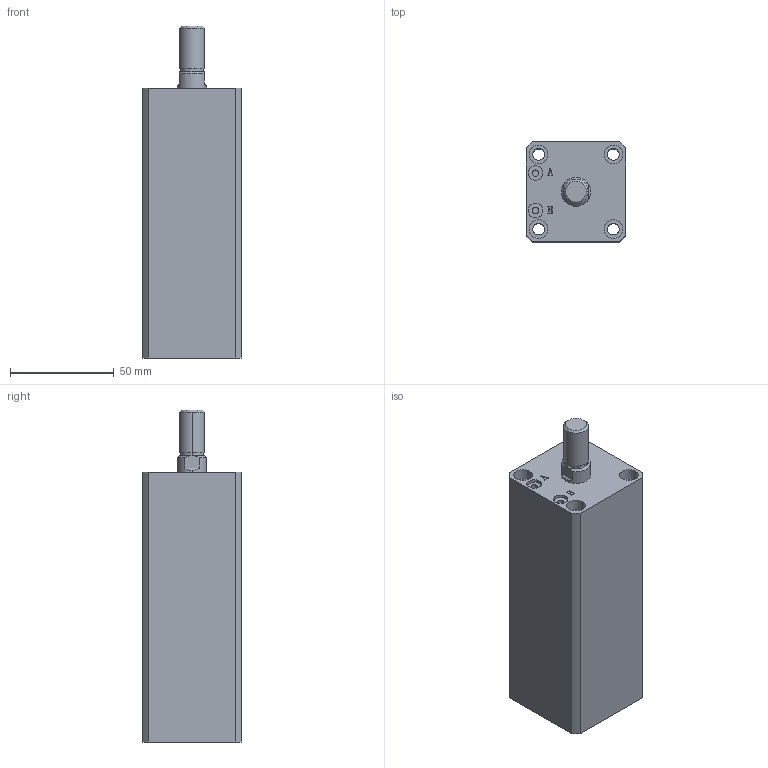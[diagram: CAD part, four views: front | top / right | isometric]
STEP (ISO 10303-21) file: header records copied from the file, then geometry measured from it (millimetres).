
FILE_DESCRIPTION (( 'STEP AP203' ), '1' );
FILE_NAME ('HTB-SDMA25-85W.STEP', '2019-10-07T11:14:47', ( '微软用户' ), ( '微软中国' ), 'SwSTEP 2.0', 'SolidWorks 2012', '' );
FILE_SCHEMA (( 'CONFIG_CONTROL_DESIGN' ));
Length unit declared in the file: millimetre
Products named in the file (3): HTB-SDMA25-85W; HTB-SDMA25-85W活塞杆; HTB-SDMA25-85掛极
Assembly tree (2 placements, depth 2):
  HTB-SDMA25-85W
    HTB-SDMA25-85掛极
    HTB-SDMA25-85W活塞杆
Bounding box: 48 x 48 x 160 mm (x, y, z)
Volume: 257664.4 mm3; surface area: 55907 mm2
Topology: 2 solids, 2 shells, 141 faces, 335 edges, 220 vertices
Faces by surface type: plane 67, cylinder 48, bspline 16, torus 6, cone 4
Entity records: 5178 total; most frequent: CARTESIAN_POINT 1609, ORIENTED_EDGE 670, DIRECTION 667, EDGE_CURVE 335, AXIS2_PLACEMENT_3D 242, VERTEX_POINT 220, LINE 183, VECTOR 183
